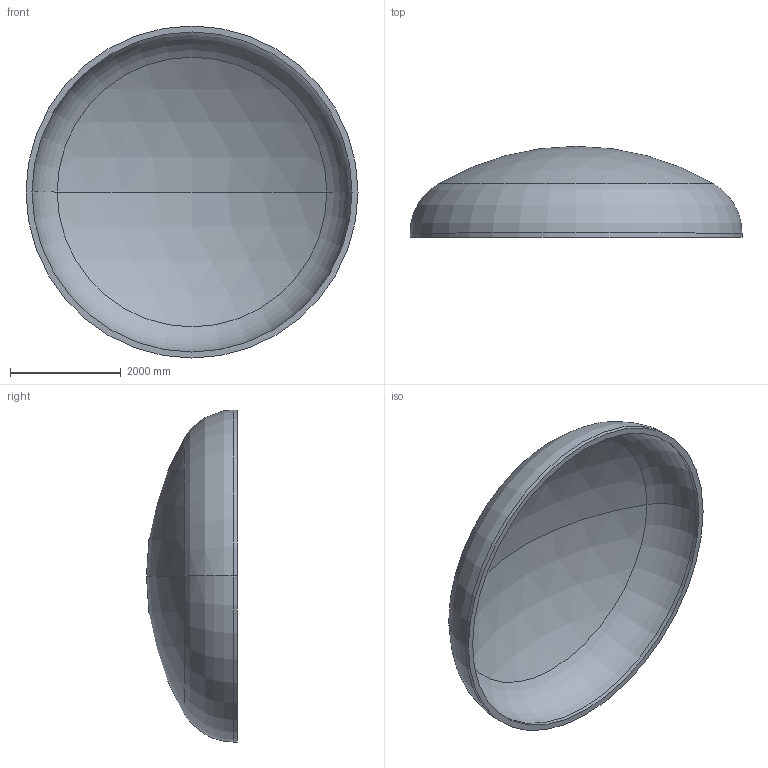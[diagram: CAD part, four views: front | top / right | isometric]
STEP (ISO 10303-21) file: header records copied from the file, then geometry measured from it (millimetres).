
FILE_DESCRIPTION (( 'STEP AP203' ), '1' );
FILE_NAME ('DIN 28013 Korbbogenform_-_Boden DIN 28013 - 6000 x 75 - I - s=108.step', '2016-07-04T10:39:02', ( '' ), ( '' ), 'SwSTEP 2.0', 'SolidWorks 2013', '' );
FILE_SCHEMA (( 'CONFIG_CONTROL_DESIGN' ));
Length unit declared in the file: millimetre
Products named in the file (1): DIN 28013 Korbbogenform_-_Boden DIN 28013 - 6000 x 75 - I - s=108
Bounding box: 6000 x 1644.36 x 6000 mm (x, y, z)
Volume: 4280875011.3 mm3; surface area: 81298971.1 mm2
Topology: 1 solids, 1 shells, 13 faces, 24 edges, 14 vertices
Faces by surface type: torus 4, cylinder 4, sphere 4, plane 1
Entity records: 407 total; most frequent: DIRECTION 72, CARTESIAN_POINT 52, ORIENTED_EDGE 48, AXIS2_PLACEMENT_3D 34, EDGE_CURVE 24, CIRCLE 20, VERTEX_POINT 14, EDGE_LOOP 14
